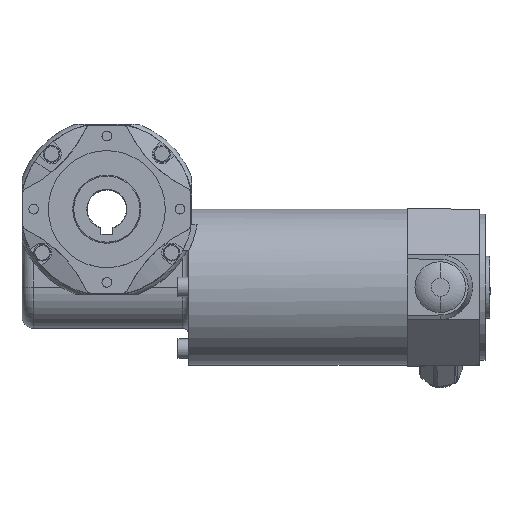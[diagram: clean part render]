
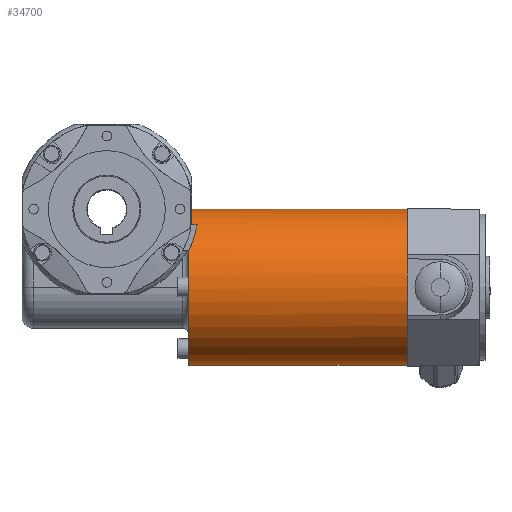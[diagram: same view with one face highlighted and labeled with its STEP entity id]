
A CAD part, top view. The second image highlights one B-rep face of the part: STEP entity #34700.
In plain terms, the highlighted cylindrical face has radius 40 mm (diameter 80 mm), a partial arc.
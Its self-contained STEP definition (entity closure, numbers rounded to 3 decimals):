
#32810=CARTESIAN_POINT('',(-48.603,455.,
-104.15));
#32820=DIRECTION('',(-0.026,0.,
1.));
#32830=DIRECTION('',(1.,0.,
0.026));
#32840=AXIS2_PLACEMENT_3D('',#32810,#32820,#32830);
#32850=CIRCLE('',#32840,40.);
#32860=CARTESIAN_POINT('',(-8.617,455.,
-103.102));
#32870=VERTEX_POINT('',#32860);
#32880=CARTESIAN_POINT('',(-88.589,455.,
-105.197));
#32890=VERTEX_POINT('',#32880);
#32900=EDGE_CURVE('',#32870,#32890,#32850,.T.);
#33540=CARTESIAN_POINT('',(-48.603,455.,
-104.15));
#33550=DIRECTION('',(-0.026,0.,
1.));
#33560=DIRECTION('',(1.,0.,
0.026));
#33570=AXIS2_PLACEMENT_3D('',#33540,#33550,#33560);
#33580=CYLINDRICAL_SURFACE('',#33570,40.);
#33590=CARTESIAN_POINT('',(-88.589,455.,
-105.197));
#33600=DIRECTION('',(-0.026,0.,
1.));
#33610=VECTOR('',#33600,1.);
#33620=LINE('',#33590,#33610);
#33630=CARTESIAN_POINT('',(-91.482,455.,
5.266));
#33640=VERTEX_POINT('',#33630);
#33650=EDGE_CURVE('',#32890,#33640,#33620,.T.);
#33660=ORIENTED_EDGE('',*,*,#33650,.T.);
#33670=ORIENTED_EDGE('',*,*,#32900,.T.);
#33680=CARTESIAN_POINT('',(-8.617,455.,
-103.102));
#33690=DIRECTION('',(-0.026,0.,
1.));
#33700=VECTOR('',#33690,1.);
#33710=LINE('',#33680,#33700);
#33720=CARTESIAN_POINT('',(-11.549,455.,
8.859));
#33730=VERTEX_POINT('',#33720);
#33740=EDGE_CURVE('',#32870,#33730,#33710,.T.);
#33750=ORIENTED_EDGE('',*,*,#33740,.F.);
#33760=CARTESIAN_POINT('',(-51.535,455.,
7.812));
#33770=DIRECTION('',(0.026,0.,
-1.));
#33780=DIRECTION('',(-1.,0.,
-0.026));
#33790=AXIS2_PLACEMENT_3D('',#33760,#33770,#33780);
#33800=CIRCLE('',#33790,40.);
#33810=CARTESIAN_POINT('',(-70.433,490.251,
7.317));
#33820=VERTEX_POINT('',#33810);
#33830=EDGE_CURVE('',#33820,#33730,#33800,.T.);
#33840=ORIENTED_EDGE('',*,*,#33830,.T.);
#33850=CARTESIAN_POINT('',(-92.621,479.,
48.751));
#33860=DIRECTION('',(0.,1.,0.));
#33870=DIRECTION('',(0.026,0.,
-1.));
#33880=AXIS2_PLACEMENT_3D('',#33850,#33860,#33870);
#33890=CYLINDRICAL_SURFACE('',#33880,47.);
#33900=CARTESIAN_POINT('',(-51.535,455.,
7.812));
#33910=DIRECTION('',(0.026,0.,
-1.));
#33920=DIRECTION('',(-1.,0.,
-0.026));
#33930=AXIS2_PLACEMENT_3D('',#33900,#33910,#33920);
#33940=CYLINDRICAL_SURFACE('',#33930,40.);
#33950=CARTESIAN_POINT('',(-83.411,479.,
2.662));
#33960=CARTESIAN_POINT('',(-83.188,479.299,
2.706));
#33970=CARTESIAN_POINT('',(-82.961,479.594,
2.753));
#33980=CARTESIAN_POINT('',(-82.73,479.886,
2.803));
#33990=CARTESIAN_POINT('',(-82.499,480.178,
2.853));
#34000=CARTESIAN_POINT('',(-82.264,480.467,
2.905));
#34010=CARTESIAN_POINT('',(-82.026,480.752,
2.96));
#34020=CARTESIAN_POINT('',(-81.787,481.038,
3.016));
#34030=CARTESIAN_POINT('',(-81.545,481.319,
3.074));
#34040=CARTESIAN_POINT('',(-81.299,481.597,
3.135));
#34050=CARTESIAN_POINT('',(-81.053,481.875,
3.196));
#34060=CARTESIAN_POINT('',(-80.804,482.149,
3.26));
#34070=CARTESIAN_POINT('',(-80.552,482.419,
3.327));
#34080=CARTESIAN_POINT('',(-80.299,482.689,
3.394));
#34090=CARTESIAN_POINT('',(-80.043,482.955,
3.464));
#34100=CARTESIAN_POINT('',(-79.785,483.216,
3.537));
#34110=CARTESIAN_POINT('',(-79.526,483.478,
3.611));
#34120=CARTESIAN_POINT('',(-79.264,483.736,
3.687));
#34130=CARTESIAN_POINT('',(-79.,483.989,
3.768));
#34140=CARTESIAN_POINT('',(-78.736,484.242,
3.848));
#34150=CARTESIAN_POINT('',(-78.469,484.491,
3.931));
#34160=CARTESIAN_POINT('',(-78.199,484.735,
4.018));
#34170=CARTESIAN_POINT('',(-77.93,484.98,
4.105));
#34180=CARTESIAN_POINT('',(-77.658,485.22,
4.195));
#34190=CARTESIAN_POINT('',(-77.384,485.455,
4.289));
#34200=CARTESIAN_POINT('',(-77.247,485.573,
4.336));
#34210=CARTESIAN_POINT('',(-77.109,485.689,
4.384));
#34220=CARTESIAN_POINT('',(-76.971,485.805,
4.433));
#34230=CARTESIAN_POINT('',(-76.833,485.92,
4.481));
#34240=CARTESIAN_POINT('',(-76.695,486.034,
4.531));
#34250=CARTESIAN_POINT('',(-76.556,486.147,
4.581));
#34260=CARTESIAN_POINT('',(-76.277,486.374,
4.683));
#34270=CARTESIAN_POINT('',(-75.996,486.596,
4.788));
#34280=CARTESIAN_POINT('',(-75.713,486.814,
4.897));
#34290=CARTESIAN_POINT('',(-75.429,487.032,
5.006));
#34300=CARTESIAN_POINT('',(-75.144,487.246,
5.12));
#34310=CARTESIAN_POINT('',(-74.856,487.455,
5.237));
#34320=CARTESIAN_POINT('',(-74.568,487.665,
5.355));
#34330=CARTESIAN_POINT('',(-74.279,487.87,
5.476));
#34340=CARTESIAN_POINT('',(-73.987,488.07,
5.602));
#34350=CARTESIAN_POINT('',(-73.696,488.271,
5.728));
#34360=CARTESIAN_POINT('',(-73.403,488.467,
5.858));
#34370=CARTESIAN_POINT('',(-73.108,488.658,
5.992));
#34380=CARTESIAN_POINT('',(-72.814,488.849,
6.127));
#34390=CARTESIAN_POINT('',(-72.518,489.036,
6.265));
#34400=CARTESIAN_POINT('',(-72.221,489.218,
6.408));
#34410=CARTESIAN_POINT('',(-71.925,489.399,
6.551));
#34420=CARTESIAN_POINT('',(-71.627,489.576,
6.698));
#34430=CARTESIAN_POINT('',(-71.329,489.749,
6.85));
#34440=CARTESIAN_POINT('',(-71.031,489.921,
7.001));
#34450=CARTESIAN_POINT('',(-70.732,490.088,
7.157));
#34460=CARTESIAN_POINT('',(-70.433,490.251,
7.317));
#34470=B_SPLINE_CURVE_WITH_KNOTS('',3,(#33950,#33960,#33970,#33980,
#33990,#34000,#34010,#34020,#34030,#34040,#34050,#34060,#34070,#34080,
#34090,#34100,#34110,#34120,#34130,#34140,#34150,#34160,#34170,#34180,
#34190,#34200,#34210,#34220,#34230,#34240,#34250,#34260,#34270,#34280,
#34290,#34300,#34310,#34320,#34330,#34340,#34350,#34360,#34370,#34380,
#34390,#34400,#34410,#34420,#34430,#34440,#34450,#34460),.UNSPECIFIED.,
.F.,.F.,(4,3,3,3,3,3,3,3,3,3,3,3,3,3,3,3,3,4),(0.,1.127,
2.254,3.382,4.509,5.636,
6.761,7.884,9.005,9.564,
10.123,11.243,12.366,13.491,
14.618,15.747,16.875,18.003),
.UNSPECIFIED.);
#34480=SURFACE_CURVE('',#34470,(#33890,#33940),.CURVE_3D.);
#34490=CARTESIAN_POINT('',(-83.411,479.,
2.662));
#34500=VERTEX_POINT('',#34490);
#34510=EDGE_CURVE('',#34500,#33820,#34480,.T.);
#34520=ORIENTED_EDGE('',*,*,#34510,.T.);
#34530=CARTESIAN_POINT('',(-83.524,479.,
6.974));
#34540=DIRECTION('',(0.026,0.,
-1.));
#34550=VECTOR('',#34540,1.);
#34560=LINE('',#34530,#34550);
#34570=CARTESIAN_POINT('',(-83.485,479.,
5.475));
#34580=VERTEX_POINT('',#34570);
#34590=EDGE_CURVE('',#34580,#34500,#34560,.T.);
#34600=ORIENTED_EDGE('',*,*,#34590,.T.);
#34610=CARTESIAN_POINT('',(-51.496,455.,
6.313));
#34620=DIRECTION('',(0.026,0.,
-1.));
#34630=DIRECTION('',(-1.,0.,
-0.026));
#34640=AXIS2_PLACEMENT_3D('',#34610,#34620,#34630);
#34650=CIRCLE('',#34640,40.);
#34660=EDGE_CURVE('',#33640,#34580,#34650,.T.);
#34670=ORIENTED_EDGE('',*,*,#34660,.T.);
#34680=EDGE_LOOP('',(#34670,#34600,#34520,#33840,#33750,#33670,#33660));
#34690=FACE_OUTER_BOUND('',#34680,.T.);
#34700=ADVANCED_FACE('',(#34690),#33580,.T.);
